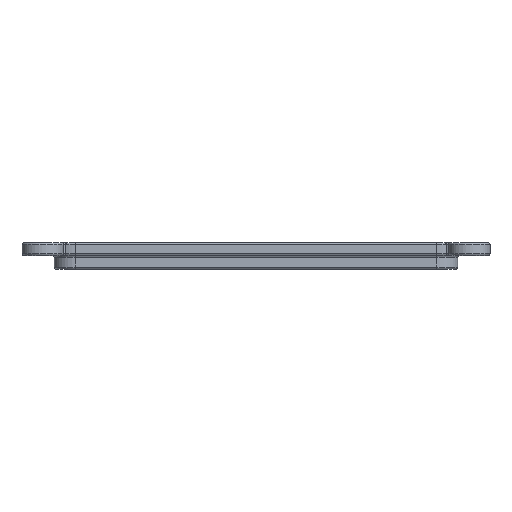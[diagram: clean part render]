
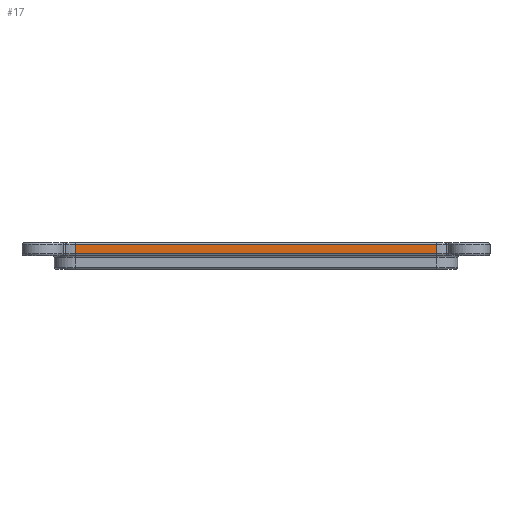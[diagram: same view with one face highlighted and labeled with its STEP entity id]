
A CAD part, left-side view. The second image highlights one B-rep face of the part: STEP entity #17.
In plain terms, the highlighted planar face has unit normal (-1, 0, 0).
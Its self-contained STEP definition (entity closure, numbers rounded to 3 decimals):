
#17 = ADVANCED_FACE('',(#18),#32,.F.);
#18 = FACE_BOUND('',#19,.F.);
#19 = EDGE_LOOP('',(#20,#55,#83,#111));
#20 = ORIENTED_EDGE('',*,*,#21,.F.);
#21 = EDGE_CURVE('',#22,#24,#26,.T.);
#22 = VERTEX_POINT('',#23);
#23 = CARTESIAN_POINT('',(-324.4,-40.,45.));
#24 = VERTEX_POINT('',#25);
#25 = CARTESIAN_POINT('',(-324.4,-40.,47.));
#26 = SURFACE_CURVE('',#27,(#31,#43),.PCURVE_S1.);
#27 = LINE('',#28,#29);
#28 = CARTESIAN_POINT('',(-324.4,-40.,44.6));
#29 = VECTOR('',#30,1.);
#30 = DIRECTION('',(0.,0.,1.));
#31 = PCURVE('',#32,#37);
#32 = PLANE('',#33);
#33 = AXIS2_PLACEMENT_3D('',#34,#35,#36);
#34 = CARTESIAN_POINT('',(-324.4,-47.4,44.6));
#35 = DIRECTION('',(1.,0.,0.));
#36 = DIRECTION('',(0.,0.,1.));
#37 = DEFINITIONAL_REPRESENTATION('',(#38),#42);
#38 = LINE('',#39,#40);
#39 = CARTESIAN_POINT('',(0.,-7.4));
#40 = VECTOR('',#41,1.);
#41 = DIRECTION('',(1.,0.));
#42 = ( GEOMETRIC_REPRESENTATION_CONTEXT(2) 
PARAMETRIC_REPRESENTATION_CONTEXT() REPRESENTATION_CONTEXT('2D SPACE',''
  ) );
#43 = PCURVE('',#44,#49);
#44 = CYLINDRICAL_SURFACE('',#45,7.4);
#45 = AXIS2_PLACEMENT_3D('',#46,#47,#48);
#46 = CARTESIAN_POINT('',(-317.,-40.,44.6));
#47 = DIRECTION('',(0.,0.,1.));
#48 = DIRECTION('',(-1.,0.,0.));
#49 = DEFINITIONAL_REPRESENTATION('',(#50),#54);
#50 = LINE('',#51,#52);
#51 = CARTESIAN_POINT('',(0.,0.));
#52 = VECTOR('',#53,1.);
#53 = DIRECTION('',(0.,1.));
#54 = ( GEOMETRIC_REPRESENTATION_CONTEXT(2) 
PARAMETRIC_REPRESENTATION_CONTEXT() REPRESENTATION_CONTEXT('2D SPACE',''
  ) );
#55 = ORIENTED_EDGE('',*,*,#56,.T.);
#56 = EDGE_CURVE('',#22,#57,#59,.T.);
#57 = VERTEX_POINT('',#58);
#58 = CARTESIAN_POINT('',(-324.4,40.,45.));
#59 = SURFACE_CURVE('',#60,(#64,#71),.PCURVE_S1.);
#60 = LINE('',#61,#62);
#61 = CARTESIAN_POINT('',(-324.4,-40.,45.));
#62 = VECTOR('',#63,1.);
#63 = DIRECTION('',(0.,1.,0.));
#64 = PCURVE('',#32,#65);
#65 = DEFINITIONAL_REPRESENTATION('',(#66),#70);
#66 = LINE('',#67,#68);
#67 = CARTESIAN_POINT('',(0.4,-7.4));
#68 = VECTOR('',#69,1.);
#69 = DIRECTION('',(0.,-1.));
#70 = ( GEOMETRIC_REPRESENTATION_CONTEXT(2) 
PARAMETRIC_REPRESENTATION_CONTEXT() REPRESENTATION_CONTEXT('2D SPACE',''
  ) );
#71 = PCURVE('',#72,#77);
#72 = CYLINDRICAL_SURFACE('',#73,0.4);
#73 = AXIS2_PLACEMENT_3D('',#74,#75,#76);
#74 = CARTESIAN_POINT('',(-324.,-40.,45.));
#75 = DIRECTION('',(0.,1.,0.));
#76 = DIRECTION('',(-1.,0.,0.));
#77 = DEFINITIONAL_REPRESENTATION('',(#78),#82);
#78 = LINE('',#79,#80);
#79 = CARTESIAN_POINT('',(-0.,0.));
#80 = VECTOR('',#81,1.);
#81 = DIRECTION('',(-0.,1.));
#82 = ( GEOMETRIC_REPRESENTATION_CONTEXT(2) 
PARAMETRIC_REPRESENTATION_CONTEXT() REPRESENTATION_CONTEXT('2D SPACE',''
  ) );
#83 = ORIENTED_EDGE('',*,*,#84,.T.);
#84 = EDGE_CURVE('',#57,#85,#87,.T.);
#85 = VERTEX_POINT('',#86);
#86 = CARTESIAN_POINT('',(-324.4,40.,47.));
#87 = SURFACE_CURVE('',#88,(#92,#99),.PCURVE_S1.);
#88 = LINE('',#89,#90);
#89 = CARTESIAN_POINT('',(-324.4,40.,44.6));
#90 = VECTOR('',#91,1.);
#91 = DIRECTION('',(0.,0.,1.));
#92 = PCURVE('',#32,#93);
#93 = DEFINITIONAL_REPRESENTATION('',(#94),#98);
#94 = LINE('',#95,#96);
#95 = CARTESIAN_POINT('',(0.,-87.4));
#96 = VECTOR('',#97,1.);
#97 = DIRECTION('',(1.,0.));
#98 = ( GEOMETRIC_REPRESENTATION_CONTEXT(2) 
PARAMETRIC_REPRESENTATION_CONTEXT() REPRESENTATION_CONTEXT('2D SPACE',''
  ) );
#99 = PCURVE('',#100,#105);
#100 = CYLINDRICAL_SURFACE('',#101,7.4);
#101 = AXIS2_PLACEMENT_3D('',#102,#103,#104);
#102 = CARTESIAN_POINT('',(-317.,40.,44.6));
#103 = DIRECTION('',(0.,0.,1.));
#104 = DIRECTION('',(-1.,0.,0.));
#105 = DEFINITIONAL_REPRESENTATION('',(#106),#110);
#106 = LINE('',#107,#108);
#107 = CARTESIAN_POINT('',(-0.,0.));
#108 = VECTOR('',#109,1.);
#109 = DIRECTION('',(-0.,1.));
#110 = ( GEOMETRIC_REPRESENTATION_CONTEXT(2) 
PARAMETRIC_REPRESENTATION_CONTEXT() REPRESENTATION_CONTEXT('2D SPACE',''
  ) );
#111 = ORIENTED_EDGE('',*,*,#112,.F.);
#112 = EDGE_CURVE('',#24,#85,#113,.T.);
#113 = SURFACE_CURVE('',#114,(#118,#125),.PCURVE_S1.);
#114 = LINE('',#115,#116);
#115 = CARTESIAN_POINT('',(-324.4,-40.,47.));
#116 = VECTOR('',#117,1.);
#117 = DIRECTION('',(0.,1.,0.));
#118 = PCURVE('',#32,#119);
#119 = DEFINITIONAL_REPRESENTATION('',(#120),#124);
#120 = LINE('',#121,#122);
#121 = CARTESIAN_POINT('',(2.4,-7.4));
#122 = VECTOR('',#123,1.);
#123 = DIRECTION('',(0.,-1.));
#124 = ( GEOMETRIC_REPRESENTATION_CONTEXT(2) 
PARAMETRIC_REPRESENTATION_CONTEXT() REPRESENTATION_CONTEXT('2D SPACE',''
  ) );
#125 = PCURVE('',#126,#131);
#126 = CYLINDRICAL_SURFACE('',#127,0.4);
#127 = AXIS2_PLACEMENT_3D('',#128,#129,#130);
#128 = CARTESIAN_POINT('',(-324.,-40.,47.));
#129 = DIRECTION('',(0.,1.,0.));
#130 = DIRECTION('',(-1.,0.,0.));
#131 = DEFINITIONAL_REPRESENTATION('',(#132),#136);
#132 = LINE('',#133,#134);
#133 = CARTESIAN_POINT('',(0.,0.));
#134 = VECTOR('',#135,1.);
#135 = DIRECTION('',(0.,1.));
#136 = ( GEOMETRIC_REPRESENTATION_CONTEXT(2) 
PARAMETRIC_REPRESENTATION_CONTEXT() REPRESENTATION_CONTEXT('2D SPACE',''
  ) );
